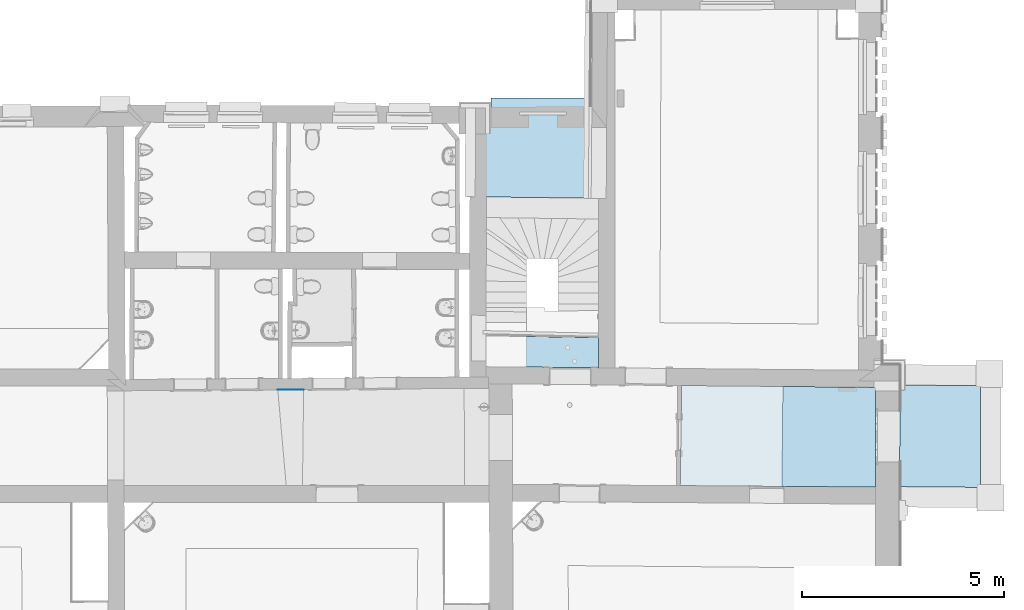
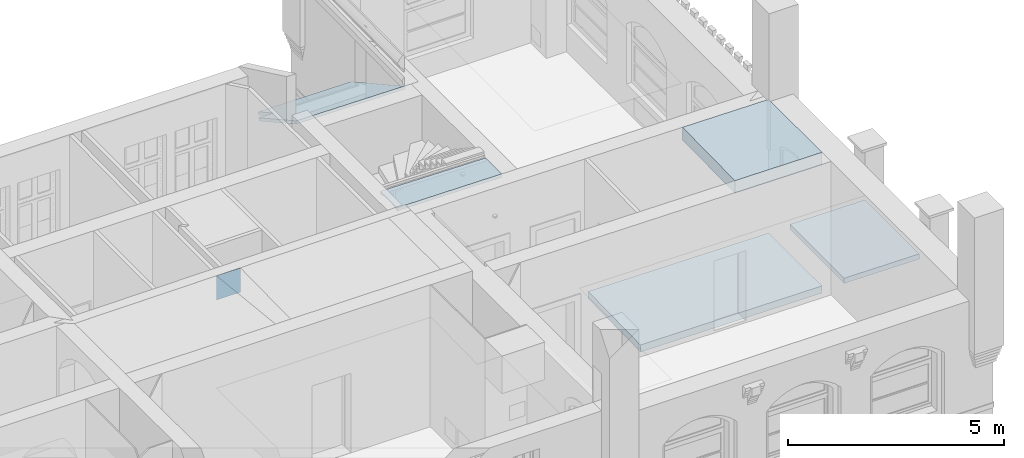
# One storey, part 6 of 90: 6 slabs.
"""IFC2X3 building model written with IfcOpenShell, lengths in metres."""

from ifc_helpers import new_model, entity, si_unit, converted_unit, derived_unit, money_unit, direction, frame, origin_with_axes, place, context, subcontext, project, spatial, polyline, outline, extrude, boolean, faceted_brep, material, layer, layer_set, layer_usage, type_object, element, save


model = new_model("IFC2X3")

# Units and contexts
model_context = context("Model", 3, precision=1e-05, world=origin_with_axes(), true_north=direction((0.0, 1.0)))
body_context = subcontext(model_context, "Body", "Model", "MODEL_VIEW")
ifc_project = project(units=[si_unit("LENGTHUNIT", "METRE"), si_unit("AREAUNIT", "SQUARE_METRE"), si_unit("VOLUMEUNIT", "CUBIC_METRE"), converted_unit("PLANEANGLEUNIT", "DEGREE", entity("IfcPlaneAngleMeasure", 0.0174532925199), si_unit("PLANEANGLEUNIT", "RADIAN"), dimensions=[0, 0, 0, 0, 0, 0, 0]), money_unit("EUR"), converted_unit("TIMEUNIT", "Year", entity("IfcTimeMeasure", 31556926.0), si_unit("TIMEUNIT", "SECOND"), dimensions=[0, 0, 1, 0, 0, 0, 0]), si_unit("MASSUNIT", "GRAM", prefix="KILO"), si_unit("THERMODYNAMICTEMPERATUREUNIT", "DEGREE_CELSIUS"), si_unit("LUMINOUSINTENSITYUNIT", "LUMEN"), si_unit("ENERGYUNIT", "JOULE", prefix="MEGA"), derived_unit("THERMALCONDUCTANCEUNIT", [(si_unit("POWERUNIT", "WATT"), 1), (si_unit("LENGTHUNIT", "METRE"), -1), (si_unit("THERMODYNAMICTEMPERATUREUNIT", "KELVIN"), -1)]), derived_unit("SPECIFICHEATCAPACITYUNIT", [(si_unit("ENERGYUNIT", "JOULE"), 1), (si_unit("MASSUNIT", "GRAM", prefix="KILO"), -1), (si_unit("THERMODYNAMICTEMPERATUREUNIT", "KELVIN"), -1)]), derived_unit("MASSDENSITYUNIT", [(si_unit("MASSUNIT", "GRAM", prefix="KILO"), 1), (si_unit("VOLUMEUNIT", "CUBIC_METRE"), -1)])], contexts=[model_context])

# Site, building, storey
site_placement = place(None, origin_with_axes())
site = spatial("IfcSite", under=ifc_project, at=site_placement, Name="Gelände", CompositionType="ELEMENT")
building_placement = place(site_placement, origin_with_axes())
building = spatial("IfcBuilding", under=site, at=building_placement, Name="Gebäude", CompositionType="ELEMENT")
storey_placement = place(building_placement, frame((0.0, 0.0, 3.7), z_axis=(0.0, 0.0, 1.0), x_axis=(1.0, 0.0, 0.0)))
storey = spatial("IfcBuildingStorey", under=building, at=storey_placement, Name="1.OBERGESCHOSS", CompositionType="ELEMENT", Elevation=3.7)

# Slabs
ifc_material_1 = material(Name="29_Dach, Dachziegel rot")
slab_type_1 = type_object("IfcSlabType", Name="29_Dach, Dachziegel rot 80", PredefinedType="ROOF")
slab_1_placement = place(storey_placement, frame((22.1618884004, 26.0793102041, 2.59006559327), z_axis=(0.0, 0.0, 1.0), x_axis=(0.999927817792, -0.0120149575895, 0.0)))
element("IfcSlab", 1, at=slab_1_placement, inside=storey, type_object=slab_type_1, material=ifc_material_1, Name="Dach-010", PredefinedType="ROOF", context=body_context, shape_type="Brep", body=[
    faceted_brep([(-0.527545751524, -0.385063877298, 0.305928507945), (-0.512230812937, -2.13282600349, 1.27891690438), (2.35455629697, -2.13629259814, 1.28084677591), (2.34483264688, 0.345743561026, -0.100915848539), (-0.148671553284, 0.316032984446, -0.0843758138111), (-0.14030320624, -0.380410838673, 0.303338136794), (-0.527545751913, -0.423976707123, 0.236030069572), (-0.512571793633, -2.13282559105, 1.18735525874), (2.35440385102, -2.13629241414, 1.18928525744), (2.34483264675, 0.306830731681, -0.170814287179), (-0.14867155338, 0.277120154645, -0.154274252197), (-0.140303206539, -0.419323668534, 0.233439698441)], [[[0, 1, 2, 3, 4, 5]], [[1, 0, 6, 7]], [[2, 1, 7, 8]], [[3, 2, 8, 9]], [[4, 3, 9, 10]], [[5, 4, 10, 11]], [[0, 5, 11, 6]], [[7, 6, 11, 10, 9, 8]]]),
])
ifc_material_2 = material(Name="05_ALLGEMEIN - TRAGENDE BAUTEILE")
ifc_layer_1 = layer(ifc_material_2, 0.686813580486, ventilated="UNKNOWN")
ifc_layer_set_1 = layer_set([ifc_layer_1], Name="05_ALLGEMEIN - TRAGENDE BAUTEILE 0.686814")
ifc_layer_usage_1 = layer_usage(ifc_layer_set_1, "AXIS3", "NEGATIVE", 0.686813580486)
slab_type_2 = type_object("IfcSlabType", Name="05_ALLGEMEIN - TRAGENDE BAUTEILE 687", PredefinedType="NOTDEFINED")
slab_2_placement = place(storey_placement, frame((17.3831755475, 19.1815812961, 3.41318641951), z_axis=(0.0, 0.0, 1.0), x_axis=(1.0, 0.0, 0.0)))
element("IfcSlab", 2, at=slab_2_placement, inside=storey, type_object=slab_type_2, material=ifc_layer_usage_1, Name="Belag-017", PredefinedType="NOTDEFINED", context=body_context, shape_type="SweptSolid", body=[
    extrude(outline(polyline([(0.0, 0.0), (6.51892344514e-05, 0.00541018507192), (-0.639348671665, 0.00100308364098), (0.0, 0.0)])), origin_with_axes(), (0.0, 0.0, 1.0), 0.686813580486),
])
ifc_layer_2 = layer(ifc_material_2, 0.2, ventilated="UNKNOWN")
ifc_layer_set_2 = layer_set([ifc_layer_2], Name="05_ALLGEMEIN - TRAGENDE BAUTEILE 0.2")
ifc_layer_usage_2 = layer_usage(ifc_layer_set_2, "AXIS3", "NEGATIVE", 0.2)
slab_type_3 = type_object("IfcSlabType", Name="05_ALLGEMEIN - TRAGENDE BAUTEILE 200", PredefinedType="NOTDEFINED")
slab_3_placement = place(storey_placement, frame((26.6923509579, 16.8123940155, 0.1), z_axis=(0.0, 0.0, 1.0), x_axis=(1.0, 0.0, 0.0)))
element("IfcSlab", 3, at=slab_3_placement, inside=storey, type_object=slab_type_3, material=ifc_layer_usage_2, Name="Belag-025", PredefinedType="NOTDEFINED", context=body_context, shape_type="SweptSolid", body=[
    extrude(outline(polyline([(0.0, 0.0), (4.82608868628, -0.0366592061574), (4.82797016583, 2.4304210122), (0.0345385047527, 2.4745910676), (0.0, 0.0)])), frame((0.0, 0.0, -0.2), z_axis=(0.0, 0.0, 1.0), x_axis=(1.0, 0.0, 0.0)), (0.0, 0.0, 1.0), 0.2),
])
ifc_layer_3 = layer(ifc_material_2, 0.14575820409, ventilated="UNKNOWN")
ifc_layer_set_3 = layer_set([ifc_layer_3], Name="05_ALLGEMEIN - TRAGENDE BAUTEILE 0.145758")
ifc_layer_usage_3 = layer_usage(ifc_layer_set_3, "AXIS3", "NEGATIVE", 0.14575820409)
slab_type_4 = type_object("IfcSlabType", Name="05_ALLGEMEIN - TRAGENDE BAUTEILE 146", PredefinedType="NOTDEFINED")
slab_4_placement = place(storey_placement, frame((32.1184476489, 16.7860021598, 0.1), z_axis=(0.0, 0.0, 1.0), x_axis=(1.0, 0.0, 0.0)))
element("IfcSlab", 4, at=slab_4_placement, inside=storey, type_object=slab_type_4, material=ifc_layer_usage_3, Name="Belag-025", PredefinedType="NOTDEFINED", context=body_context, shape_type="SweptSolid", body=[
    extrude(outline(polyline([(0.0, 0.0), (1.9952713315, -0.0169446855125), (2.00006404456, 2.50001016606), (0.00191719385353, 2.51391041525), (0.0, 0.0)])), frame((0.0, 0.0, -0.14575820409), z_axis=(0.0, 0.0, 1.0), x_axis=(1.0, 0.0, 0.0)), (0.0, 0.0, 1.0), 0.14575820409),
])
ifc_layer_4 = layer(ifc_material_2, 0.182958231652, ventilated="UNKNOWN")
ifc_layer_set_4 = layer_set([ifc_layer_4], Name="05_ALLGEMEIN - TRAGENDE BAUTEILE 0.182958")
ifc_layer_usage_4 = layer_usage(ifc_layer_set_4, "AXIS3", "NEGATIVE", 0.182958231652)
slab_type_5 = type_object("IfcSlabType", Name="05_ALLGEMEIN - TRAGENDE BAUTEILE 183", PredefinedType="NOTDEFINED")
slab_5_placement = place(storey_placement, frame((21.8942092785, 19.7515346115, 3.68704176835), z_axis=(0.0, 0.0, 1.0), x_axis=(1.0, 0.0, 0.0)))
element("IfcSlab", 5, at=slab_5_placement, inside=storey, type_object=slab_type_5, material=ifc_layer_usage_4, Name="Belag-030", PredefinedType="NOTDEFINED", context=body_context, shape_type="CSG", body=[
    boolean("DIFFERENCE", extrude(outline(polyline([(0.0, 0.0), (2.77765027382, -0.0255952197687), (2.77776000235, 0.717754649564), (0.00100421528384, 0.770162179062), (0.0, 0.0)])), origin_with_axes(), (0.0, 0.0, 1.0), 0.182958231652), faceted_brep([(0.00100421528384, 0.770162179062, 0.0939335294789), (2.77776000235, 0.717754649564, 0.107455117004), (2.77776000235, 0.717754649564, 0.0), (0.00100421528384, 0.770162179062, 0.0), (2.77774365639, 0.607019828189, 0.136250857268), (0.000792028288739, 0.607429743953, 0.136250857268), (2.77766712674, 0.0885739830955, 0.121754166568), (2.77765027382, -0.0255952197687, 0.0851427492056), (2.77765027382, -0.0255952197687, 0.0), (2.77771813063, 0.434097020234, 0.155914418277), (2.77769245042, 0.260127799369, 0.151049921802), (0.0, 0.0, 0.0), (0.0, 0.0, 0.0932190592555), (0.000116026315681, 0.0889839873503, 0.121754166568), (0.000339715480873, 0.260537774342, 0.151049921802), (0.000566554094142, 0.434506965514, 0.155914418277)], [[[0, 1, 2, 3]], [[4, 1, 0, 5]], [[6, 7, 8, 2, 1, 4, 9, 10]], [[8, 11, 3, 2]], [[5, 0, 3, 11, 12, 13, 14, 15]], [[9, 4, 5, 15]], [[7, 6, 13, 12]], [[7, 12, 11, 8]], [[10, 9, 15, 14]], [[6, 10, 14, 13]]])),
])
ifc_layer_5 = layer(ifc_material_2, 0.36, ventilated="UNKNOWN")
ifc_layer_set_5 = layer_set([ifc_layer_5], Name="05_ALLGEMEIN - TRAGENDE BAUTEILE 0.36")
ifc_layer_usage_5 = layer_usage(ifc_layer_set_5, "AXIS3", "NEGATIVE", 0.36)
slab_type_6 = type_object("IfcSlabType", Name="05_ALLGEMEIN - TRAGENDE BAUTEILE 360", PredefinedType="NOTDEFINED")
slab_6_placement = place(storey_placement, frame((29.2312060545, 19.2639085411, 3.51), z_axis=(0.0, 0.0, 1.0), x_axis=(1.0, 0.0, 0.0)))
element("IfcSlab", 6, at=slab_6_placement, inside=storey, type_object=slab_type_6, material=ifc_layer_usage_5, Name="Belag-040", PredefinedType="NOTDEFINED", context=body_context, shape_type="SweptSolid", body=[
    extrude(outline(polyline([(0.0, 0.0), (-0.0262298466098, -2.47060055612), (2.28723359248, -2.48817373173), (2.28911508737, -0.0210934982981), (0.0, 0.0)])), origin_with_axes(), (0.0, 0.0, 1.0), 0.36),
])

save(model, "model.ifc")
